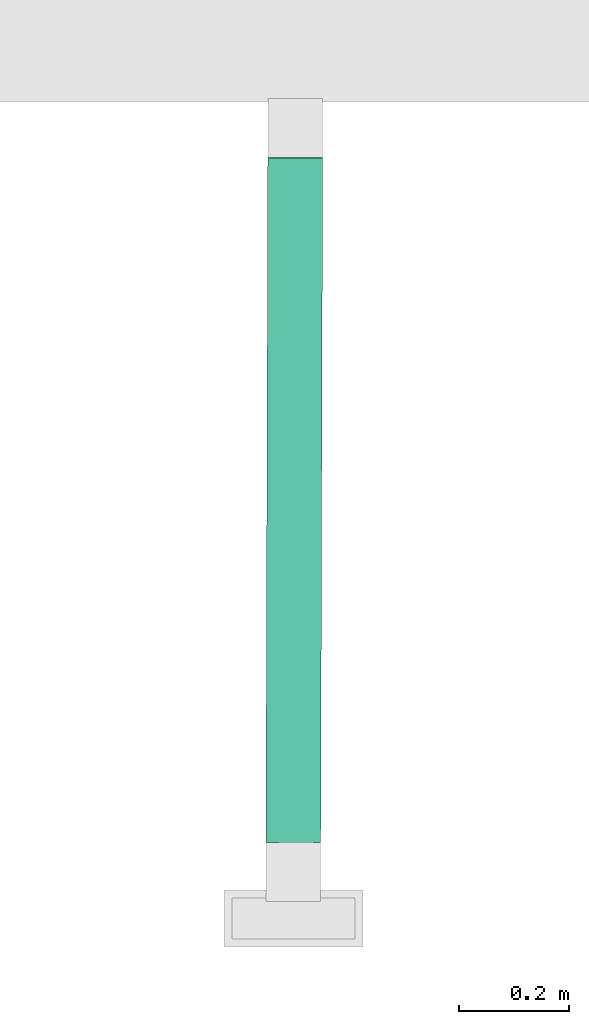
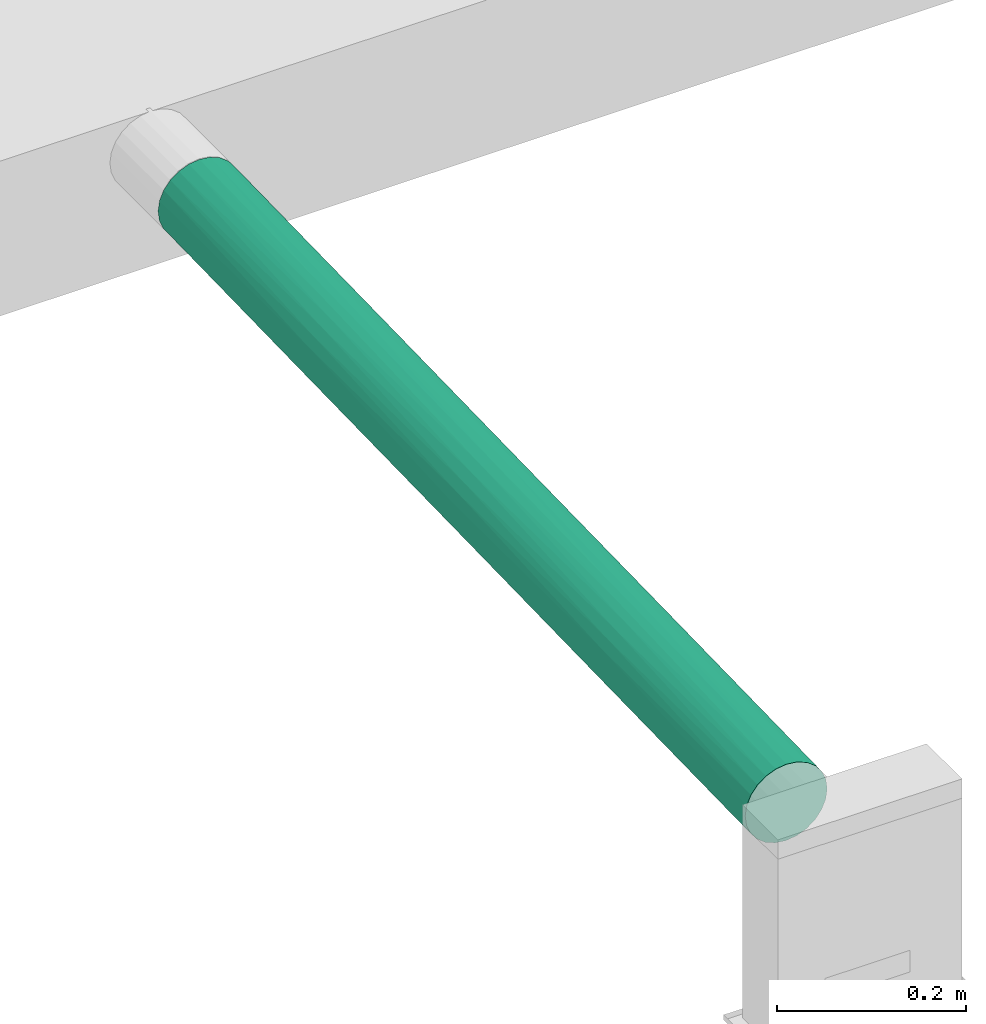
# One storey, part 44 of 60: 1 flow segment.
"""IFC2X3 building model written with IfcOpenShell, lengths in millimetres."""

from ifc_helpers import new_model, entity, si_unit, converted_unit, derived_unit, direction, frame, origin, place, context, subcontext, project, spatial, faceted_brep, type_object, element, save


model = new_model("IFC2X3")

# Units and contexts
model_context = context("Model", 3, precision=0.01, world=origin(), true_north=direction((6.123233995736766e-17, 1.0)))
body_context = subcontext(model_context, "Body", "Model", "MODEL_VIEW")
ifc_project = project(units=[si_unit("LENGTHUNIT", "METRE", prefix="MILLI"), converted_unit("PLANEANGLEUNIT", "DEGREE", entity("IfcPlaneAngleMeasure", 0.017453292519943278), si_unit("PLANEANGLEUNIT", "RADIAN"), dimensions=[0, 0, 0, 0, 0, 0, 0]), si_unit("AREAUNIT", "SQUARE_METRE"), derived_unit("THERMALTRANSMITTANCEUNIT", [(si_unit("MASSUNIT", "GRAM", prefix="KILO"), 1), (si_unit("THERMODYNAMICTEMPERATUREUNIT", "KELVIN"), -1), (si_unit("TIMEUNIT", "SECOND"), -3)])], contexts=[model_context])

# Site, building, storey
site_placement = place(None, origin())
site = spatial("IfcSite", under=ifc_project, at=site_placement, Name="Default", CompositionType="ELEMENT")
building_placement = place(site_placement, origin())
building = spatial("IfcBuilding", under=site, at=building_placement, Name="Praça Pedro II, 1301 - Centro (Sul), Teresina - PI, 64001-100", CompositionType="ELEMENT")
storey_placement = place(building_placement, frame((0.0, 0.0, 6040.0)))
storey = spatial("IfcBuildingStorey", under=building, at=storey_placement, Name="2PAV", CompositionType="ELEMENT", Elevation=6040.0)

# Flow segment
duct_segment_type = type_object("IfcDuctSegmentType", Name="Duto flexível redondo:Flexível - Redondo", PredefinedType="FLEXIBLESEGMENT")
flow_segment_placement = place(storey_placement, frame((26519.474112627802, -70122.70965349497, 2625.5380618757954)))
element("IfcFlowSegment", 1, at=flow_segment_placement, inside=storey, type_object=duct_segment_type, Name="Duto flexível redondo:Flexível - Redondo", ObjectType="Duto flexível redondo:Flexível - Redondo", context=body_context, shape_type="Brep", body=[
    faceted_brep([(3.2983134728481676, 2.413700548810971, 64.52566014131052), (1.5952722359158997, 2.6555407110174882, 51.58687996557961), (3.299635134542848, 2.8878836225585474, 38.64809978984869), (8.29525265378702, 3.0948954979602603, 26.591076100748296), (16.241681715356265, 3.262468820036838, 16.237475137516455), (26.597386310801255, 3.3791837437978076, 8.292877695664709), (38.65664228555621, 3.4370863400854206, 3.2986949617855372), (51.597631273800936, 3.432230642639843, 1.5952722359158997), (64.53844626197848, 3.364947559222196, 3.2986949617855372), (76.59719209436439, 3.239822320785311, 8.292877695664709), (86.95208517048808, 3.065382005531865, 16.237475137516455), (94.89745663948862, 2.853514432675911, 26.591076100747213), (99.89184256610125, 2.6186580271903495, 38.64809978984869), (101.59488380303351, 2.376817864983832, 51.58687996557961), (99.89052090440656, 2.144474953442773, 64.52566014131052), (94.8949033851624, 1.93746307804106, 76.58268383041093), (86.94847432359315, 1.769889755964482, 86.93628479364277), (76.59276972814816, 1.653174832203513, 94.88088223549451), (64.5335137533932, 1.5952722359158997, 99.87506496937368), (51.592524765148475, 1.6001279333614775, 101.57848769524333), (38.65170977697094, 1.667411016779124, 99.87506496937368), (26.59296394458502, 1.7925362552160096, 94.88088223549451), (16.238070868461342, 1.9669765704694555, 86.93628479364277), (8.292699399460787, 2.1788441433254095, 76.58268383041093), (12.798981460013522, 315.27171862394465, 26.872681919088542), (6.272120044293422, 315.0828131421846, 38.17468432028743), (10.034976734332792, 627.2695362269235, 38.02860518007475), (42.8770548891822, 280.0777794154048, 7.5734347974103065), (52.64930184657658, 380.74844375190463, 8.509306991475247), (52.28568442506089, 250.29053035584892, 6.118764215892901), (44.61677896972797, 904.2524201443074, 19.01096387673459), (54.38902592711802, 1004.9230844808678, 19.946836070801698), (54.02540959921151, 874.4655634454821, 17.556300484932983), (53.33735535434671, 627.6068713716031, 13.03280131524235), (5.039359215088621, 627.0625243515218, 50.085628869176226), (3.275977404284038, 279.4626624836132, 47.16599729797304), (17.981405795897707, 627.4371095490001, 27.67500421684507), (2.646942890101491, 379.9717830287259, 58.50091525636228), (5.015701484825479, 903.6373032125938, 58.60352637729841), (3.3349963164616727, 626.8301814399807, 63.024409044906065), (4.386666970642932, 1004.1464237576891, 69.93844433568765), (5.074720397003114, 1251.0048221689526, 74.46193812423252), (6.779083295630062, 1251.2371650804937, 61.52315794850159), (22.029012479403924, 315.4150894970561, 17.644635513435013), (33.33320170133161, 315.50315238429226, 11.119421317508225), (28.337110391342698, 627.5538244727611, 19.730406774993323), (40.39636636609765, 627.6117270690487, 14.73622404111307), (42.13609044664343, 1251.7863677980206, 26.173753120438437), (55.077079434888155, 1251.7815121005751, 24.4703303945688), (71.60139626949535, 315.3964895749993, 11.119421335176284), (62.057838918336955, 350.92800823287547, 8.872681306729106), (66.27817034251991, 627.5395882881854, 14.736224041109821), (101.63156664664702, 626.7932987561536, 50.08562886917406), (101.45724817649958, 279.1889983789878, 47.16599750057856), (98.659714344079, 314.8253042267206, 38.17468447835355), (63.79756299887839, 975.1026489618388, 20.310210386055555), (78.33691617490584, 627.4144630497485, 19.730406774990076), (82.90491891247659, 315.24541410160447, 17.644635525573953), (92.13400731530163, 315.0505934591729, 26.872681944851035), (88.69180925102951, 627.2400227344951, 27.67500421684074), (102.64655447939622, 379.69306813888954, 58.50091540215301), (102.2829372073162, 249.2352083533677, 56.11037360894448), (103.19697225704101, 903.363639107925, 58.603526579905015), (104.38627855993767, 1003.8677088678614, 69.93844448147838), (104.02266128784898, 873.409849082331, 67.54790268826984), (103.33460788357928, 626.5514585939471, 63.024409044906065), (96.6371807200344, 627.0281551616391, 38.0286051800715), (103.37129072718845, 1250.9679394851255, 61.52315794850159), (105.07433196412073, 1250.726099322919, 74.46193812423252), (98.65776016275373, 314.12418885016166, 76.43660454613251), (101.65390281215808, 349.7443461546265, 67.4452915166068), (101.63024498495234, 626.319115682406, 75.96318922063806), (66.27323783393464, 625.7699129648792, 111.31259404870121), (61.85520122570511, 278.22607975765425, 105.73860769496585), (71.59667845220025, 313.703847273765, 103.4918676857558), (103.39362689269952, 973.9189868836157, 78.88282059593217), (96.63462746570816, 626.1121038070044, 88.02021290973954), (92.13089866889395, 313.93528003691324, 87.73860706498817), (82.90086764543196, 313.791909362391, 96.96665348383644), (88.68819840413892, 625.9445304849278, 98.37381387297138), (52.64419544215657, 378.91637843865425, 108.49252313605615), (52.28057816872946, 248.45851817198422, 106.10198133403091), (63.59492530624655, 902.4007204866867, 117.17613677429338), (54.383919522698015, 1003.0910191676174, 119.93005221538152), (54.02030224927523, 872.6331589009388, 117.53951041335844), (53.332248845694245, 625.7747686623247, 113.01601677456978), (78.33249380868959, 625.8278155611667, 106.31841131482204), (68.01296191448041, 1249.944553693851, 122.75012312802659), (55.07197292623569, 1249.9494093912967, 124.45354585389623), (33.32848386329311, 313.81050988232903, 103.49186768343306), (43.06966523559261, 349.1821308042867, 107.03785421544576), (40.39143385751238, 625.8420517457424, 111.31259404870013), (5.0380375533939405, 626.5883412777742, 75.9631892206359), (3.275007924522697, 279.1148605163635, 66.14604498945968), (6.270165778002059, 314.3816951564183, 76.43660453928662), (44.80938931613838, 973.356771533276, 118.4753832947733), (28.33268802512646, 625.9671769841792, 106.31841131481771), (22.02496120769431, 313.9615850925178, 96.96665348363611), (12.79587280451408, 314.15640575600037, 87.73860706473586), (17.977794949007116, 626.1416172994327, 98.37381387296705), (5.014732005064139, 903.2895012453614, 77.5835740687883), (10.03242348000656, 626.3534848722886, 88.02021290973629), (6.7777616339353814, 1250.7629820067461, 87.40071829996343), (11.772147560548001, 1250.5281256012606, 99.45774198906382), (19.717519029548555, 1250.3162580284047, 109.81134295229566), (30.07241210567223, 1250.141817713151, 117.75594039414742), (42.13115793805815, 1250.0166924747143, 122.75012312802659), (80.07221788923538, 1250.0024562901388, 117.75594039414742), (90.42792248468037, 1250.1191712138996, 109.81134295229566), (98.3743515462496, 1250.2867445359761, 99.45774198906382), (103.36996906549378, 1250.493756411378, 87.40071829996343), (98.37690480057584, 1251.202795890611, 49.466134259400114), (90.43153333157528, 1251.4146634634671, 39.11253329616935), (80.07664025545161, 1251.5891037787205, 31.16793585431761), (68.01789442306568, 1251.7142290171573, 26.173753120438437), (30.07683447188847, 1251.728465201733, 31.16793585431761), (19.72112987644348, 1251.611750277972, 39.11253329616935), (11.774700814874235, 1251.4441769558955, 49.466134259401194), (14.538705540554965, 939.4463593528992, 38.31021099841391), (8.011844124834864, 939.2574538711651, 49.612213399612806), (23.768736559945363, 939.5897302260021, 29.082164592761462), (35.07292578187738, 939.6777931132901, 22.556950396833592), (73.34112035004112, 939.5711303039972, 22.556950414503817), (100.39943842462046, 938.9999449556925, 49.61221355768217), (84.64464299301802, 939.4200548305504, 29.08216460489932), (93.87373139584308, 939.2252341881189, 38.310211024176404), (100.39748424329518, 938.2988295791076, 87.87413362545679), (73.33640253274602, 937.8784880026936, 114.9293967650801), (93.87062274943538, 938.1099207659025, 99.17613614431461), (84.64059172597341, 937.9665500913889, 108.40418256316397), (35.06820794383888, 937.9851506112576, 114.92939676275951), (8.0098898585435, 938.556335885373, 87.87413361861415), (23.76468528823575, 938.1362258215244, 108.40418256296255), (14.53559688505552, 938.3310464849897, 99.17613614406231)], [[[0, 1, 2, 3, 4, 5, 6, 7, 8, 9, 10, 11, 12, 13, 14, 15, 16, 17, 18, 19, 20, 21, 22, 23]], [[24, 25, 26]], [[27, 28, 29, 7]], [[30, 31, 32, 33]], [[34, 26, 25]], [[34, 25, 35]], [[25, 2, 35]], [[25, 24, 3]], [[36, 24, 26]], [[35, 1, 37]], [[38, 39, 40]], [[24, 4, 3]], [[37, 39, 34]], [[40, 41, 42]], [[43, 24, 36]], [[2, 25, 3]], [[44, 45, 46]], [[1, 35, 2]], [[45, 43, 36]], [[7, 6, 27]], [[43, 5, 4]], [[44, 43, 45]], [[27, 6, 44]], [[44, 5, 43]], [[24, 43, 4]], [[5, 44, 6]], [[46, 33, 28]], [[47, 48, 31]], [[34, 35, 37]], [[46, 27, 44]], [[46, 28, 27]], [[49, 50, 51]], [[52, 53, 54]], [[50, 29, 28, 33]], [[55, 32, 31, 48]], [[49, 51, 56]], [[8, 7, 29]], [[51, 33, 32]], [[50, 33, 51]], [[8, 49, 9]], [[8, 29, 50]], [[57, 10, 9]], [[57, 49, 56]], [[58, 57, 59]], [[53, 60, 61, 13]], [[62, 63, 64, 65]], [[54, 66, 52]], [[52, 65, 60]], [[67, 68, 63]], [[53, 12, 54]], [[13, 12, 53]], [[58, 11, 10]], [[54, 58, 66]], [[52, 60, 53]], [[54, 11, 58]], [[57, 58, 10]], [[59, 57, 56]], [[11, 54, 12]], [[66, 58, 59]], [[8, 50, 49]], [[49, 57, 9]], [[69, 70, 71]], [[72, 73, 74]], [[70, 61, 60, 65]], [[75, 64, 63, 68]], [[69, 71, 76]], [[14, 13, 61]], [[71, 65, 64]], [[70, 65, 71]], [[14, 69, 15]], [[14, 61, 70]], [[77, 16, 15]], [[77, 69, 76]], [[78, 77, 79]], [[73, 80, 81, 19]], [[82, 83, 84, 85]], [[74, 86, 72]], [[72, 85, 80]], [[87, 88, 83]], [[73, 18, 74]], [[19, 18, 73]], [[78, 17, 16]], [[74, 78, 86]], [[72, 80, 73]], [[74, 17, 78]], [[77, 78, 16]], [[79, 77, 76]], [[17, 74, 18]], [[86, 78, 79]], [[14, 70, 69]], [[69, 77, 15]], [[89, 90, 91]], [[92, 93, 94]], [[90, 81, 80, 85]], [[95, 84, 83, 88]], [[89, 91, 96]], [[20, 19, 81]], [[91, 85, 84]], [[90, 85, 91]], [[20, 89, 21]], [[20, 81, 90]], [[97, 22, 21]], [[97, 89, 96]], [[98, 97, 99]], [[1, 93, 37]], [[39, 100, 40]], [[94, 101, 92]], [[92, 39, 37]], [[102, 41, 40]], [[93, 0, 94]], [[1, 0, 93]], [[98, 23, 22]], [[94, 98, 101]], [[92, 37, 93]], [[94, 23, 98]], [[97, 98, 22]], [[99, 97, 96]], [[23, 94, 0]], [[101, 98, 99]], [[20, 90, 89]], [[89, 97, 21]], [[103, 104, 105, 106, 88, 87, 107, 108, 109, 110, 68, 67, 111, 112, 113, 114, 48, 47, 115, 116, 117, 42, 41, 102]], [[118, 119, 117]], [[42, 117, 119]], [[42, 119, 38]], [[119, 34, 38]], [[119, 118, 26]], [[116, 118, 117]], [[118, 36, 26]], [[120, 118, 116]], [[34, 119, 26]], [[121, 115, 47]], [[39, 38, 34]], [[115, 120, 116]], [[33, 46, 30]], [[120, 45, 36]], [[121, 120, 115]], [[30, 46, 121]], [[121, 45, 120]], [[118, 120, 36]], [[45, 121, 46]], [[42, 38, 40]], [[47, 30, 121]], [[47, 31, 30]], [[122, 55, 114]], [[67, 62, 123]], [[122, 114, 113]], [[55, 48, 114]], [[51, 122, 56]], [[51, 32, 55]], [[124, 59, 56]], [[124, 122, 113]], [[125, 124, 112]], [[123, 111, 67]], [[62, 52, 123]], [[65, 52, 62]], [[125, 66, 59]], [[123, 125, 111]], [[67, 63, 62]], [[123, 66, 125]], [[124, 125, 59]], [[112, 124, 113]], [[66, 123, 52]], [[111, 125, 112]], [[51, 55, 122]], [[122, 124, 56]], [[126, 75, 110]], [[87, 82, 127]], [[126, 110, 109]], [[75, 68, 110]], [[71, 126, 76]], [[71, 64, 75]], [[128, 79, 76]], [[128, 126, 109]], [[129, 128, 108]], [[127, 107, 87]], [[82, 72, 127]], [[85, 72, 82]], [[129, 86, 79]], [[127, 129, 107]], [[87, 83, 82]], [[127, 86, 129]], [[128, 129, 79]], [[108, 128, 109]], [[86, 127, 72]], [[107, 129, 108]], [[71, 75, 126]], [[126, 128, 76]], [[130, 95, 106]], [[102, 100, 131]], [[130, 106, 105]], [[95, 88, 106]], [[91, 130, 96]], [[91, 84, 95]], [[132, 99, 96]], [[132, 130, 105]], [[133, 132, 104]], [[131, 103, 102]], [[100, 92, 131]], [[39, 92, 100]], [[133, 101, 99]], [[131, 133, 103]], [[102, 40, 100]], [[131, 101, 133]], [[132, 133, 99]], [[104, 132, 105]], [[101, 131, 92]], [[103, 133, 104]], [[91, 95, 130]], [[130, 132, 96]]]),
])

save(model, "model.ifc")
